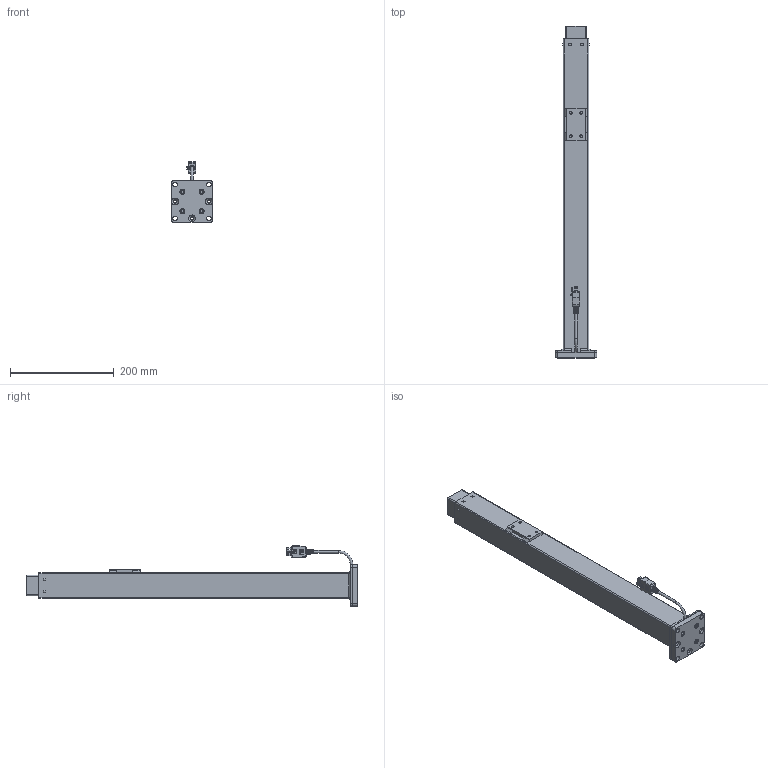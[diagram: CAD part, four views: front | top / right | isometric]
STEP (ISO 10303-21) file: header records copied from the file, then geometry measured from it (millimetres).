
FILE_DESCRIPTION(/* description */ ('Unknown'),/* implementation_level */ '2;1');
FILE_NAME(/* name */ '908.02003_00-Eingefahren',/* time_stamp */ '2022-02-03T17:04:14+01:00',/* author */ ('Unknown'),/* organization */ ('Unknown'),/* preprocessor_version */ 'ST-DEVELOPER v18.1',/* originating_system */ 'Solid Edge',/* authorisation */ 'Unknown');
FILE_SCHEMA (('AUTOMOTIVE_DESIGN {1 0 10303 214 3 1 1}'));
Length unit declared in the file: millimetre
Products named in the file (14): 908.02003; 127.00655; 127.00658; Aussenrohr 50x50x2 bearbeitet_2018 08 15; Flanschplatte_2018 08 15; Anschweissplatte Traverse_2018 08 15; 127.00658_515_565_Kehlnaht 2_oa_0; 127.00658_515_565_Kehlnaht 2_oa_1; 127.00660; Innenrohr 40x40x2_2018 08 15; Bodenplatte_2018 0815; 128.00070; 142.00166; Kabel Molex
Assembly tree (23 placements, depth 3):
  908.02003
    127.00655
    127.00658
      Aussenrohr 50x50x2 bearbeitet_2018 08 15
      Flanschplatte_2018 08 15
      Anschweissplatte Traverse_2018 08 15
      127.00658_515_565_Kehlnaht 2_oa_0
      127.00658_515_565_Kehlnaht 2_oa_1
    127.00660
      Innenrohr 40x40x2_2018 08 15
      Bodenplatte_2018 0815
    128.00070  x8
    142.00166  x4
    Kabel Molex
Bounding box: 80 x 640 x 116.67 mm (x, y, z)
Volume: 474538.1 mm3; surface area: 415209 mm2
Topology: 28 solids, 28 shells, 892 faces, 2317 edges, 1526 vertices
Faces by surface type: plane 631, cylinder 164, torus 50, bspline 36, cone 11
Full cylindrical faces by diameter (mm): 4.917 x7, 5 x6, 5.5 x4, 6.5 x3, 8.376 x1, 8.5 x4, 9 x8, 10 x4, 13 x3
Entity records: 26523 total; most frequent: CARTESIAN_POINT 5509, ORIENTED_EDGE 3532, DIRECTION 3488, EDGE_CURVE 1766, LINE 1212, VECTOR 1212, VERTEX_POINT 1188, AXIS2_PLACEMENT_3D 1138
